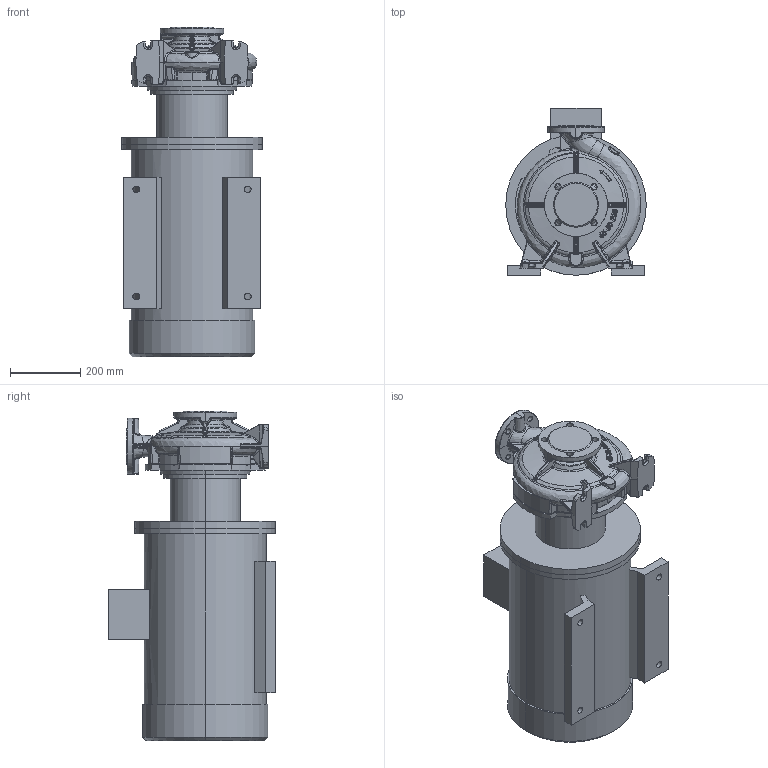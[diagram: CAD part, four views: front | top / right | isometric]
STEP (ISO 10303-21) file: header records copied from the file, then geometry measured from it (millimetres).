
FILE_DESCRIPTION (( 'STEP AP214' ), '1' );
FILE_NAME ('KRM 65-50-250-2-30.STEP', '2026-04-24T13:37:22', ( '' ), ( '' ), 'SwSTEP 2.0', 'SolidWorks 2016', '' );
FILE_SCHEMA (( 'AUTOMOTIVE_DESIGN' ));
Length unit declared in the file: millimetre
Products named in the file (1): KRM 65-50-250-2-30
Bounding box: 400 x 475 x 939 mm (x, y, z)
Volume: 82778422 mm3; surface area: 2340214.8 mm2
Topology: 4 solids, 4 shells, 1169 faces, 2832 edges, 1679 vertices
Faces by surface type: bspline 550, cylinder 224, plane 212, torus 83, cone 83, sphere 17
Entity records: 85891 total; most frequent: CARTESIAN_POINT 50334, ORIENTED_EDGE 5610, DIRECTION 3540, EDGE_CURVE 2805, VERTEX_POINT 1679, AXIS2_PLACEMENT_3D 1465, EDGE_LOOP 1228, UNCERTAINTY_MEASURE_WITH_UNIT 1175
